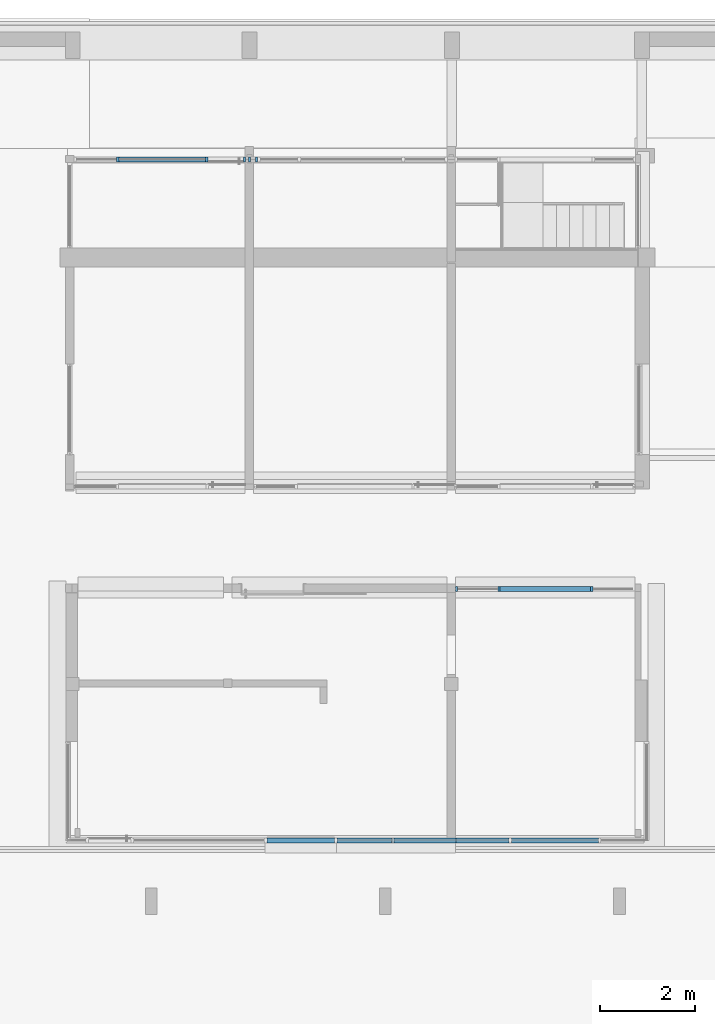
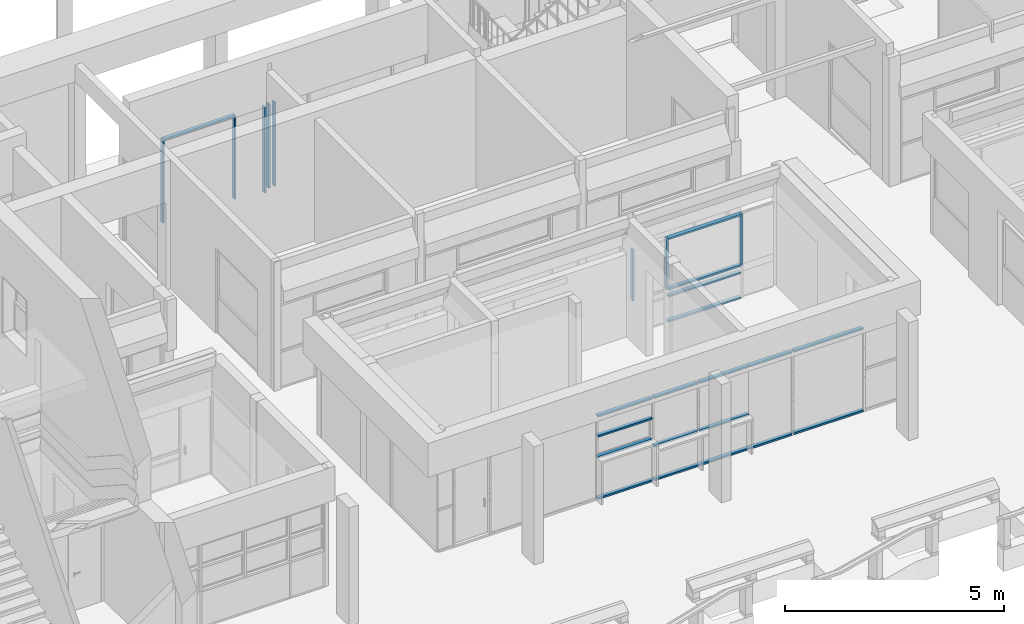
# One storey, part 6 of 117: 27 members, 3 elements without a shape of their own.
"""IFC4 building model written with IfcOpenShell, lengths in metres."""

from ifc_helpers import new_model, entity, si_unit, converted_unit, derived_unit, direction, frame, origin, place, context, subcontext, project, spatial, indexed_curve, outline, extrude, source, transform, mapped, material, type_object, type_shapes, element, aggregate, save


model = new_model("IFC4")

# Units and contexts
model_context = context("Model", 3, precision=1e-05, world=origin(), true_north=direction((6.123031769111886e-17, 1.0)))
body_context = subcontext(model_context, "Body", "Model", "MODEL_VIEW")
ifc_project = project(units=[si_unit("LENGTHUNIT", "METRE"), si_unit("AREAUNIT", "SQUARE_METRE"), si_unit("VOLUMEUNIT", "CUBIC_METRE"), converted_unit("PLANEANGLEUNIT", "DEGREE", entity("IfcRatioMeasure", 0.017453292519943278), si_unit("PLANEANGLEUNIT", "RADIAN"), dimensions=[0, 0, 0, 0, 0, 0, 0]), si_unit("MASSUNIT", "GRAM", prefix="KILO"), derived_unit("MASSDENSITYUNIT", [(si_unit("MASSUNIT", "GRAM", prefix="KILO"), 1), (si_unit("LENGTHUNIT", "METRE"), -3)]), derived_unit("MOMENTOFINERTIAUNIT", [(si_unit("LENGTHUNIT", "METRE"), 4)]), si_unit("TIMEUNIT", "SECOND"), si_unit("FREQUENCYUNIT", "HERTZ"), si_unit("THERMODYNAMICTEMPERATUREUNIT", "DEGREE_CELSIUS"), derived_unit("THERMALTRANSMITTANCEUNIT", [(si_unit("MASSUNIT", "GRAM", prefix="KILO"), 1), (si_unit("THERMODYNAMICTEMPERATUREUNIT", "KELVIN"), -1), (si_unit("TIMEUNIT", "SECOND"), -3)]), derived_unit("VOLUMETRICFLOWRATEUNIT", [(si_unit("LENGTHUNIT", "METRE"), 3), (si_unit("TIMEUNIT", "SECOND"), -1)]), derived_unit("MASSFLOWRATEUNIT", [(si_unit("MASSUNIT", "GRAM", prefix="KILO"), 1), (si_unit("TIMEUNIT", "SECOND"), -1)]), derived_unit("ROTATIONALFREQUENCYUNIT", [(si_unit("TIMEUNIT", "SECOND"), -1)]), si_unit("ELECTRICCURRENTUNIT", "AMPERE"), si_unit("ELECTRICVOLTAGEUNIT", "VOLT"), si_unit("POWERUNIT", "WATT"), si_unit("FORCEUNIT", "NEWTON", prefix="KILO"), si_unit("ILLUMINANCEUNIT", "LUX"), si_unit("LUMINOUSFLUXUNIT", "LUMEN"), si_unit("LUMINOUSINTENSITYUNIT", "CANDELA"), derived_unit("USERDEFINED", [(si_unit("MASSUNIT", "GRAM", prefix="KILO"), -1), (si_unit("LENGTHUNIT", "METRE"), -2), (si_unit("TIMEUNIT", "SECOND"), 3), (si_unit("LUMINOUSFLUXUNIT", "LUMEN"), 1)]), derived_unit("SOUNDPOWERUNIT", [(si_unit("MASSUNIT", "GRAM", prefix="KILO"), 1), (si_unit("LENGTHUNIT", "METRE"), 2), (si_unit("TIMEUNIT", "SECOND"), -3)]), derived_unit("SOUNDPRESSUREUNIT", [(si_unit("MASSUNIT", "GRAM", prefix="KILO"), 1), (si_unit("LENGTHUNIT", "METRE"), -1), (si_unit("TIMEUNIT", "SECOND"), -2)]), derived_unit("LINEARVELOCITYUNIT", [(si_unit("LENGTHUNIT", "METRE"), 1), (si_unit("TIMEUNIT", "SECOND"), -1)]), si_unit("PRESSUREUNIT", "PASCAL"), derived_unit("USERDEFINED", [(si_unit("LENGTHUNIT", "METRE"), -2), (si_unit("MASSUNIT", "GRAM", prefix="KILO"), 1), (si_unit("TIMEUNIT", "SECOND"), -2)]), derived_unit("LINEARFORCEUNIT", [(si_unit("MASSUNIT", "GRAM", prefix="KILO"), 1), (si_unit("LENGTHUNIT", "METRE"), 1), (si_unit("TIMEUNIT", "SECOND"), -2), (si_unit("LENGTHUNIT", "METRE"), -1)]), derived_unit("PLANARFORCEUNIT", [(si_unit("MASSUNIT", "GRAM", prefix="KILO"), 1), (si_unit("LENGTHUNIT", "METRE"), 1), (si_unit("TIMEUNIT", "SECOND"), -2), (si_unit("LENGTHUNIT", "METRE"), -2)])], contexts=[model_context])

# Site, building, storey
site_placement = place(None, origin())
site = spatial("IfcSite", under=ifc_project, at=site_placement, Name="Superficie", CompositionType="ELEMENT")
building_placement = place(site_placement, origin())
building = spatial("IfcBuilding", under=site, at=building_placement, CompositionType="ELEMENT")
storey_placement = place(building_placement, origin())
storey = spatial("IfcBuildingStorey", under=building, at=storey_placement, Name="Nivel 0", CompositionType="ELEMENT", Elevation=0.0)

# Curtain wall, members
curtain_wall_type = type_object("IfcCurtainWallType", Name="Muro cortina:Muro cortina - simple", PredefinedType="NOTDEFINED")
curtain_wall_1_placement = place(storey_placement, origin())
curtain_wall_1 = element("IfcCurtainWall", 1, at=curtain_wall_1_placement, inside=storey, type_object=curtain_wall_type, Name="Muro cortina:Muro cortina - simple", ObjectType="Muro cortina:Muro cortina - simple", PredefinedType="NOTDEFINED")
ifc_material = material(Name="<Unnamed>")
member_type_1 = type_object("IfcMemberType", Name="Montante rectangular:Montante rectangular - 5 x 10 cm", PredefinedType="MULLION", material=ifc_material)
shared_shape_1 = source(origin(), body_context, "Body", "SweptSolid", [
    extrude(outline(indexed_curve([(-0.05, -0.025), (0.05, -0.025), (0.05, 0.025), (-0.05, 0.025), (-0.05, -0.025)], self_intersect=False)), frame((0.0, 0.0, -1.4349999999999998), z_axis=(0.0, 0.0, 1.0), x_axis=(0.0, -1.0, 0.0)), (0.0, 0.0, 1.0), 1.4349999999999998),
])
type_shapes(member_type_1, [shared_shape_1])
member_1_placement = place(curtain_wall_1_placement, frame((-4.373200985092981, 3.5558292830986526, 0.9199999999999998), z_axis=(0.0, 0.0, -1.0), x_axis=(-1.0, 0.0, 0.0)))
member_1 = element("IfcMember", 2, at=member_1_placement, type_object=member_type_1, material=ifc_material, Name="Montante rectangular:Montante rectangular - 5 x 10 cm", ObjectType="Montante rectangular:Montante rectangular - 5 x 10 cm", PredefinedType="MULLION", context=body_context, shape_type="MappedRepresentation", body=[
    mapped(shared_shape_1, transform((0.0, 0.0, 0.0), scale=1.0)),
])
member_2_placement = place(curtain_wall_1_placement, frame((-6.333200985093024, 3.5558292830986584, 0.9199999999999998), z_axis=(0.0, 0.0, -1.0), x_axis=(-1.0, 0.0, 0.0)))
member_2 = element("IfcMember", 3, at=member_2_placement, type_object=member_type_1, material=ifc_material, Name="Montante rectangular:Montante rectangular - 5 x 10 cm", ObjectType="Montante rectangular:Montante rectangular - 5 x 10 cm", PredefinedType="MULLION", context=body_context, shape_type="MappedRepresentation", body=[
    mapped(shared_shape_1, transform((0.0, 0.0, 0.0), scale=1.0)),
])
member_3_placement = place(curtain_wall_1_placement, frame((-7.233200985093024, 3.555829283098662, 0.9199999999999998), z_axis=(0.0, 0.0, -1.0), x_axis=(-1.0, 0.0, 0.0)))
member_3 = element("IfcMember", 4, at=member_3_placement, type_object=member_type_1, material=ifc_material, Name="Montante rectangular:Montante rectangular - 5 x 10 cm", ObjectType="Montante rectangular:Montante rectangular - 5 x 10 cm", PredefinedType="MULLION", context=body_context, shape_type="MappedRepresentation", body=[
    mapped(shared_shape_1, transform((0.0, 0.0, 0.0), scale=1.0)),
])
member_type_2 = type_object("IfcMemberType", Name="Montante rectangular:Montante rectangular - 5 x 10 cm", PredefinedType="MULLION", material=ifc_material)
shared_shape_2 = source(origin(), body_context, "Body", "SweptSolid", [
    extrude(outline(indexed_curve([(-0.05, -0.025), (0.05, -0.025), (0.05, 0.025), (-0.05, 0.025), (-0.05, -0.025)], self_intersect=False)), frame((0.0, 0.0, -1.9100000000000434), z_axis=(0.0, 0.0, 1.0), x_axis=(0.0, -1.0, 0.0)), (0.0, 0.0, 1.0), 1.910000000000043),
])
type_shapes(member_type_2, [shared_shape_2])
member_4_placement = place(curtain_wall_1_placement, frame((-6.308200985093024, 3.5558292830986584, 0.9199999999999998), z_axis=(-1.0, 0.0, 0.0), x_axis=(0.0, 0.0, 1.0)))
member_4 = element("IfcMember", 5, at=member_4_placement, type_object=member_type_2, material=ifc_material, Name="Montante rectangular:Montante rectangular - 5 x 10 cm", ObjectType="Montante rectangular:Montante rectangular - 5 x 10 cm", PredefinedType="MULLION", context=body_context, shape_type="MappedRepresentation", body=[
    mapped(shared_shape_2, transform((0.0, 0.0, 0.0), scale=1.0)),
])
member_5_placement = place(curtain_wall_1_placement, frame((-6.308200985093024, 3.5558292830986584, 0.7199999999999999), z_axis=(-1.0, 0.0, 0.0), x_axis=(0.0, 0.0, 1.0)))
member_5 = element("IfcMember", 6, at=member_5_placement, type_object=member_type_2, material=ifc_material, Name="Montante rectangular:Montante rectangular - 5 x 10 cm", ObjectType="Montante rectangular:Montante rectangular - 5 x 10 cm", PredefinedType="MULLION", context=body_context, shape_type="MappedRepresentation", body=[
    mapped(shared_shape_2, transform((0.0, 0.0, 0.0), scale=1.0)),
])
member_6_placement = place(curtain_wall_1_placement, frame((-6.308200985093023, 3.5558292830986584, 0.019999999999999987), z_axis=(-1.0, 0.0, 0.0), x_axis=(0.0, 0.0, 1.0)))
member_6 = element("IfcMember", 7, at=member_6_placement, type_object=member_type_2, material=ifc_material, Name="Montante rectangular:Montante rectangular - 5 x 10 cm", ObjectType="Montante rectangular:Montante rectangular - 5 x 10 cm", PredefinedType="MULLION", context=body_context, shape_type="MappedRepresentation", body=[
    mapped(shared_shape_2, transform((0.0, 0.0, 0.0), scale=1.0)),
])
member_7_placement = place(curtain_wall_1_placement, frame((-6.308200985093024, 3.5558292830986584, 2.33), z_axis=(-1.0, 0.0, 0.0), x_axis=(0.0, 0.0, 1.0)))
member_7 = element("IfcMember", 8, at=member_7_placement, type_object=member_type_2, material=ifc_material, Name="Montante rectangular:Montante rectangular - 5 x 10 cm", ObjectType="Montante rectangular:Montante rectangular - 5 x 10 cm", PredefinedType="MULLION", context=body_context, shape_type="MappedRepresentation", body=[
    mapped(shared_shape_2, transform((0.0, 0.0, 0.0), scale=1.0)),
])
aggregate(curtain_wall_1, [member_1, member_2, member_4, member_5, member_3, member_6, member_7])

curtain_wall_2_placement = place(storey_placement, origin())
curtain_wall_2 = element("IfcCurtainWall", 9, at=curtain_wall_2_placement, inside=storey, type_object=curtain_wall_type, Name="Muro cortina:Muro cortina - simple", ObjectType="Muro cortina:Muro cortina - simple", PredefinedType="NOTDEFINED")
member_type_3 = type_object("IfcMemberType", Name="Montante rectangular:Montante rectangular - 5 x 10 cm", PredefinedType="MULLION", material=ifc_material)
shared_shape_3 = source(origin(), body_context, "Body", "SweptSolid", [
    extrude(outline(indexed_curve([(-0.05, -0.025), (0.05, -0.025), (0.05, 0.025), (-0.05, 0.025), (-0.05, -0.025)], self_intersect=False)), frame((-0.025, 0.0, -1.4299999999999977), z_axis=(0.0, 0.0, 1.0), x_axis=(0.0, -1.0, 0.0)), (0.0, 0.0, 1.0), 1.4299999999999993),
])
type_shapes(member_type_3, [shared_shape_3])
member_8_placement = place(curtain_wall_2_placement, frame((-11.239766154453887, -1.7641707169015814, 0.0), z_axis=(-1.0, 0.0, 0.0), x_axis=(0.0, 0.0, -1.0)))
member_8 = element("IfcMember", 10, at=member_8_placement, type_object=member_type_3, material=ifc_material, Name="Montante rectangular:Montante rectangular - 5 x 10 cm", ObjectType="Montante rectangular:Montante rectangular - 5 x 10 cm", PredefinedType="MULLION", context=body_context, shape_type="MappedRepresentation", body=[
    mapped(shared_shape_3, transform((0.0, 0.0, 0.0), scale=1.0)),
])
member_type_4 = type_object("IfcMemberType", Name="Montante rectangular:Montante rectangular - 5 x 10 cm", PredefinedType="MULLION", material=ifc_material)
shared_shape_4 = source(origin(), body_context, "Body", "SweptSolid", [
    extrude(outline(indexed_curve([(-0.05, -0.025), (0.05, -0.025), (0.05, 0.025), (-0.05, 0.025), (-0.05, -0.025)], self_intersect=False)), frame((-0.025, 0.0, -1.839999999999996), z_axis=(0.0, 0.0, 1.0), x_axis=(0.0, -1.0, 0.0)), (0.0, 0.0, 1.0), 1.839999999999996),
])
type_shapes(member_type_4, [shared_shape_4])
member_9_placement = place(curtain_wall_2_placement, frame((-4.233029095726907, -1.7641707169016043, 2.35), z_axis=(1.0, 0.0, 0.0), x_axis=(0.0, 0.0, 1.0)))
member_9 = element("IfcMember", 11, at=member_9_placement, type_object=member_type_4, material=ifc_material, Name="Montante rectangular:Montante rectangular - 5 x 10 cm", ObjectType="Montante rectangular:Montante rectangular - 5 x 10 cm", PredefinedType="MULLION", context=body_context, shape_type="MappedRepresentation", body=[
    mapped(shared_shape_4, transform((0.0, 0.0, 0.0), scale=1.0)),
])

# Curtain wall, member
curtain_wall_3_placement = place(storey_placement, origin())
curtain_wall_3 = element("IfcCurtainWall", 12, at=curtain_wall_3_placement, inside=storey, type_object=curtain_wall_type, Name="Muro cortina:Muro cortina - simple", ObjectType="Muro cortina:Muro cortina - simple", PredefinedType="NOTDEFINED")
member_10_placement = place(curtain_wall_3_placement, frame((-14.377388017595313, 12.640829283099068, 2.44), z_axis=(-1.0, 0.0, 0.0), x_axis=(0.0, 0.0, 1.0)))
member_10 = element("IfcMember", 13, at=member_10_placement, type_object=member_type_4, material=ifc_material, Name="Montante rectangular:Montante rectangular - 5 x 10 cm", ObjectType="Montante rectangular:Montante rectangular - 5 x 10 cm", PredefinedType="MULLION", context=body_context, shape_type="MappedRepresentation", body=[
    mapped(shared_shape_4, transform((0.0, 0.0, 0.0), scale=1.0)),
])

# Member
member_type_5 = type_object("IfcMemberType", Name="Montante rectangular:Montante rectangular - 5 x 10 cm", PredefinedType="MULLION", material=ifc_material)
shared_shape_5 = source(origin(), body_context, "Body", "SweptSolid", [
    extrude(outline(indexed_curve([(-0.05, -0.025), (0.05, -0.025), (0.05, 0.025), (-0.05, 0.025), (-0.05, -0.025)], self_intersect=False)), frame((-0.025, 0.0, -1.8399999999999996), z_axis=(0.0, 0.0, 1.0), x_axis=(0.0, -1.0, 0.0)), (0.0, 0.0, 1.0), 1.8399999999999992),
])
type_shapes(member_type_5, [shared_shape_5])
member_11_placement = place(curtain_wall_2_placement, frame((-6.0730290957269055, -1.7641707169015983, 0.0), z_axis=(-1.0, 0.0, 0.0), x_axis=(0.0, 0.0, -1.0)))
member_11 = element("IfcMember", 14, at=member_11_placement, type_object=member_type_5, material=ifc_material, Name="Montante rectangular:Montante rectangular - 5 x 10 cm", ObjectType="Montante rectangular:Montante rectangular - 5 x 10 cm", PredefinedType="MULLION", context=body_context, shape_type="MappedRepresentation", body=[
    mapped(shared_shape_5, transform((0.0, 0.0, 0.0), scale=1.0)),
])

member_type_6 = type_object("IfcMemberType", Name="Montante rectangular:Montante rectangular - 5 x 10 cm", PredefinedType="MULLION", material=ifc_material)
shared_shape_6 = source(origin(), body_context, "Body", "SweptSolid", [
    extrude(outline(indexed_curve([(-0.05, -0.025), (0.05, -0.025), (0.05, 0.025), (-0.05, 0.025), (-0.05, -0.025)], self_intersect=False)), frame((-0.025, 0.0, -1.124999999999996), z_axis=(0.0, 0.0, 1.0), x_axis=(0.0, -1.0, 0.0)), (0.0, 0.0, 1.0), 1.124999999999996),
])
type_shapes(member_type_6, [shared_shape_6])
member_12_placement = place(curtain_wall_2_placement, frame((-6.123029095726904, -1.7641707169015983, 2.35), z_axis=(1.0, 0.0, 0.0), x_axis=(0.0, 0.0, 1.0)))
member_12 = element("IfcMember", 15, at=member_12_placement, type_object=member_type_6, material=ifc_material, Name="Montante rectangular:Montante rectangular - 5 x 10 cm", ObjectType="Montante rectangular:Montante rectangular - 5 x 10 cm", PredefinedType="MULLION", context=body_context, shape_type="MappedRepresentation", body=[
    mapped(shared_shape_6, transform((0.0, 0.0, 0.0), scale=1.0)),
])

member_type_7 = type_object("IfcMemberType", Name="Montante rectangular:Montante rectangular - 5 x 10 cm", PredefinedType="MULLION", material=ifc_material)
shared_shape_7 = source(origin(), body_context, "Body", "SweptSolid", [
    extrude(outline(indexed_curve([(-0.05, -0.025), (0.05, -0.025), (0.05, 0.025), (-0.05, 0.025), (-0.05, -0.025)], self_intersect=False)), frame((-0.025, 0.0, -1.1249999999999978), z_axis=(0.0, 0.0, 1.0), x_axis=(0.0, -1.0, 0.0)), (0.0, 0.0, 1.0), 1.1249999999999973),
])
type_shapes(member_type_7, [shared_shape_7])
member_13_placement = place(curtain_wall_2_placement, frame((-7.248029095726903, -1.7641707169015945, 0.0), z_axis=(-1.0, 0.0, 0.0), x_axis=(0.0, 0.0, -1.0)))
member_13 = element("IfcMember", 16, at=member_13_placement, type_object=member_type_7, material=ifc_material, Name="Montante rectangular:Montante rectangular - 5 x 10 cm", ObjectType="Montante rectangular:Montante rectangular - 5 x 10 cm", PredefinedType="MULLION", context=body_context, shape_type="MappedRepresentation", body=[
    mapped(shared_shape_7, transform((0.0, 0.0, 0.0), scale=1.0)),
])

member_type_8 = type_object("IfcMemberType", Name="Montante rectangular:Montante rectangular - 5 x 10 cm", PredefinedType="MULLION", material=ifc_material)
shared_shape_8 = source(origin(), body_context, "Body", "SweptSolid", [
    extrude(outline(indexed_curve([(-0.05, -0.025), (0.05, -0.025), (0.05, 0.025), (-0.05, 0.025), (-0.05, -0.025)], self_intersect=False)), frame((-0.025, 0.0, -1.3117370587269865), z_axis=(0.0, 0.0, 1.0), x_axis=(0.0, -1.0, 0.0)), (0.0, 0.0, 1.0), 1.3117370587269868),
])
type_shapes(member_type_8, [shared_shape_8])
member_14_placement = place(curtain_wall_2_placement, frame((-7.2480290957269, -1.7641707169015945, 2.3499999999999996), z_axis=(1.0, 0.0, 0.0), x_axis=(0.0, 0.0, 1.0)))
member_14 = element("IfcMember", 17, at=member_14_placement, type_object=member_type_8, material=ifc_material, Name="Montante rectangular:Montante rectangular - 5 x 10 cm", ObjectType="Montante rectangular:Montante rectangular - 5 x 10 cm", PredefinedType="MULLION", context=body_context, shape_type="MappedRepresentation", body=[
    mapped(shared_shape_8, transform((0.0, 0.0, 0.0), scale=1.0)),
])

member_type_9 = type_object("IfcMemberType", Name="Montante rectangular:Montante rectangular - 5 x 10 cm", PredefinedType="MULLION", material=ifc_material)
shared_shape_9 = source(origin(), body_context, "Body", "SweptSolid", [
    extrude(outline(indexed_curve([(-0.05, -0.025), (0.05, -0.025), (0.05, 0.025), (-0.05, 0.025), (-0.05, -0.025)], self_intersect=False)), frame((-0.025, 0.0, -1.1749999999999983), z_axis=(0.0, 0.0, 1.0), x_axis=(0.0, -1.0, 0.0)), (0.0, 0.0, 1.0), 1.175),
])
type_shapes(member_type_9, [shared_shape_9])
member_15_placement = place(curtain_wall_2_placement, frame((-9.759766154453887, -1.7641707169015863, 0.0), z_axis=(-1.0, 0.0, 0.0), x_axis=(0.0, 0.0, -1.0)))
member_15 = element("IfcMember", 18, at=member_15_placement, type_object=member_type_9, material=ifc_material, Name="Montante rectangular:Montante rectangular - 5 x 10 cm", ObjectType="Montante rectangular:Montante rectangular - 5 x 10 cm", PredefinedType="MULLION", context=body_context, shape_type="MappedRepresentation", body=[
    mapped(shared_shape_9, transform((0.0, 0.0, 0.0), scale=1.0)),
])

member_type_10 = type_object("IfcMemberType", Name="Montante rectangular:Montante rectangular - 5 x 10 cm", PredefinedType="MULLION", material=ifc_material)
shared_shape_10 = source(origin(), body_context, "Body", "SweptSolid", [
    extrude(outline(indexed_curve([(-0.05, -0.025), (0.05, -0.025), (0.05, 0.025), (-0.05, 0.025), (-0.05, -0.025)], self_intersect=False)), frame((-0.025, 0.0, -1.4299999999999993), z_axis=(0.0, 0.0, 1.0), x_axis=(0.0, -1.0, 0.0)), (0.0, 0.0, 1.0), 1.4299999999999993),
])
type_shapes(member_type_10, [shared_shape_10])
member_16_placement = place(curtain_wall_2_placement, frame((-9.80976615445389, -1.7641707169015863, 2.35), z_axis=(1.0, 0.0, 0.0), x_axis=(0.0, 0.0, 1.0)))
member_16 = element("IfcMember", 19, at=member_16_placement, type_object=member_type_10, material=ifc_material, Name="Montante rectangular:Montante rectangular - 5 x 10 cm", ObjectType="Montante rectangular:Montante rectangular - 5 x 10 cm", PredefinedType="MULLION", context=body_context, shape_type="MappedRepresentation", body=[
    mapped(shared_shape_10, transform((0.0, 0.0, 0.0), scale=1.0)),
])

member_type_11 = type_object("IfcMemberType", Name="Montante rectangular:Montante rectangular - 5 x 10 cm", PredefinedType="MULLION", material=ifc_material)
shared_shape_11 = source(origin(), body_context, "Body", "SweptSolid", [
    extrude(outline(indexed_curve([(-0.05, -0.025), (0.05, -0.025), (0.05, 0.025), (-0.05, 0.025), (-0.05, -0.025)], self_intersect=False)), frame((-0.025, 0.0, -1.1500000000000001), z_axis=(0.0, 0.0, 1.0), x_axis=(0.0, -1.0, 0.0)), (0.0, 0.0, 1.0), 1.1500000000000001),
])
type_shapes(member_type_11, [shared_shape_11])
member_17_placement = place(curtain_wall_2_placement, frame((-8.609766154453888, -1.76417071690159, 2.35), z_axis=(1.0, 0.0, 0.0), x_axis=(0.0, 0.0, 1.0)))
member_17 = element("IfcMember", 20, at=member_17_placement, type_object=member_type_11, material=ifc_material, Name="Montante rectangular:Montante rectangular - 5 x 10 cm", ObjectType="Montante rectangular:Montante rectangular - 5 x 10 cm", PredefinedType="MULLION", context=body_context, shape_type="MappedRepresentation", body=[
    mapped(shared_shape_11, transform((0.0, 0.0, 0.0), scale=1.0)),
])

member_type_12 = type_object("IfcMemberType", Name="Montante rectangular:Montante rectangular - 5 x 10 cm", PredefinedType="MULLION", material=ifc_material)
shared_shape_12 = source(origin(), body_context, "Body", "SweptSolid", [
    extrude(outline(indexed_curve([(-0.05, -0.025), (0.05, -0.025), (0.05, 0.025), (-0.05, 0.025), (-0.05, -0.025)], self_intersect=False)), frame((-0.025, 0.0, -1.336737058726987), z_axis=(0.0, 0.0, 1.0), x_axis=(0.0, -1.0, 0.0)), (0.0, 0.0, 1.0), 1.3367370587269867),
])
type_shapes(member_type_12, [shared_shape_12])
member_18_placement = place(curtain_wall_2_placement, frame((-8.584766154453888, -1.76417071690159, 0.0), z_axis=(-1.0, 0.0, 0.0), x_axis=(0.0, 0.0, -1.0)))
member_18 = element("IfcMember", 21, at=member_18_placement, type_object=member_type_12, material=ifc_material, Name="Montante rectangular:Montante rectangular - 5 x 10 cm", ObjectType="Montante rectangular:Montante rectangular - 5 x 10 cm", PredefinedType="MULLION", context=body_context, shape_type="MappedRepresentation", body=[
    mapped(shared_shape_12, transform((0.0, 0.0, 0.0), scale=1.0)),
])

member_type_13 = type_object("IfcMemberType", Name="Montante rectangular:Montante rectangular - 5 x 10 cm", PredefinedType="MULLION", material=ifc_material)
shared_shape_13 = source(origin(), body_context, "Body", "SweptSolid", [
    extrude(outline(indexed_curve([(-0.05, -0.025), (0.05, -0.025), (0.05, 0.025), (-0.05, 0.025), (-0.05, -0.025)], self_intersect=False)), frame((0.0, 0.0, -1.429999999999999), z_axis=(0.0, 0.0, 1.0), x_axis=(0.0, -1.0, 0.0)), (0.0, 0.0, 1.0), 1.4299999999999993),
])
type_shapes(member_type_13, [shared_shape_13])
member_19_placement = place(curtain_wall_2_placement, frame((-9.80976615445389, -1.7641707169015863, 1.175), z_axis=(1.0, 0.0, 0.0), x_axis=(0.0, 0.0, 1.0)))
member_19 = element("IfcMember", 22, at=member_19_placement, type_object=member_type_13, material=ifc_material, Name="Montante rectangular:Montante rectangular - 5 x 10 cm", ObjectType="Montante rectangular:Montante rectangular - 5 x 10 cm", PredefinedType="MULLION", context=body_context, shape_type="MappedRepresentation", body=[
    mapped(shared_shape_13, transform((0.0, 0.0, 0.0), scale=1.0)),
])

member_20_placement = place(curtain_wall_2_placement, frame((-9.80976615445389, -1.7641707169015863, 1.7625), z_axis=(1.0, 0.0, 0.0), x_axis=(0.0, 0.0, 1.0)))
member_20 = element("IfcMember", 23, at=member_20_placement, type_object=member_type_13, material=ifc_material, Name="Montante rectangular:Montante rectangular - 5 x 10 cm", ObjectType="Montante rectangular:Montante rectangular - 5 x 10 cm", PredefinedType="MULLION", context=body_context, shape_type="MappedRepresentation", body=[
    mapped(shared_shape_13, transform((0.0, 0.0, 0.0), scale=1.0)),
])

member_type_14 = type_object("IfcMemberType", Name="Montante rectangular:Montante rectangular - 5 x 10 cm", PredefinedType="MULLION", material=ifc_material)
shared_shape_14 = source(origin(), body_context, "Body", "SweptSolid", [
    extrude(outline(indexed_curve([(-0.05, -0.025), (0.05, -0.025), (0.05, 0.025), (-0.05, 0.025), (-0.05, -0.025)], self_intersect=False)), frame((0.0, 0.0, -1.1500000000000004), z_axis=(0.0, 0.0, 1.0), x_axis=(0.0, -1.0, 0.0)), (0.0, 0.0, 1.0), 1.1500000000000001),
])
type_shapes(member_type_14, [shared_shape_14])
member_21_placement = place(curtain_wall_2_placement, frame((-8.609766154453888, -1.76417071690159, 0.9750000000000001), z_axis=(1.0, 0.0, 0.0), x_axis=(0.0, 0.0, 1.0)))
member_21 = element("IfcMember", 24, at=member_21_placement, type_object=member_type_14, material=ifc_material, Name="Montante rectangular:Montante rectangular - 5 x 10 cm", ObjectType="Montante rectangular:Montante rectangular - 5 x 10 cm", PredefinedType="MULLION", context=body_context, shape_type="MappedRepresentation", body=[
    mapped(shared_shape_14, transform((0.0, 0.0, 0.0), scale=1.0)),
])

member_type_15 = type_object("IfcMemberType", Name="Montante rectangular:Montante rectangular - 5 x 10 cm", PredefinedType="MULLION", material=ifc_material)
shared_shape_15 = source(origin(), body_context, "Body", "SweptSolid", [
    extrude(outline(indexed_curve([(-0.05, -0.025), (0.05, -0.025), (0.05, 0.025), (-0.05, 0.025), (-0.05, -0.025)], self_intersect=False)), frame((0.0, 0.0, -1.3117370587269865), z_axis=(0.0, 0.0, 1.0), x_axis=(0.0, -1.0, 0.0)), (0.0, 0.0, 1.0), 1.3117370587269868),
])
type_shapes(member_type_15, [shared_shape_15])
member_22_placement = place(curtain_wall_2_placement, frame((-7.248029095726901, -1.7641707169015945, 0.9750000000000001), z_axis=(1.0, 0.0, 0.0), x_axis=(0.0, 0.0, 1.0)))
member_22 = element("IfcMember", 25, at=member_22_placement, type_object=member_type_15, material=ifc_material, Name="Montante rectangular:Montante rectangular - 5 x 10 cm", ObjectType="Montante rectangular:Montante rectangular - 5 x 10 cm", PredefinedType="MULLION", context=body_context, shape_type="MappedRepresentation", body=[
    mapped(shared_shape_15, transform((0.0, 0.0, 0.0), scale=1.0)),
])

aggregate(curtain_wall_2, [member_8, member_9, member_11, member_12, member_13, member_14, member_15, member_16, member_17, member_18, member_19, member_21, member_22, member_20])

member_type_16 = type_object("IfcMemberType", Name="Montante rectangular:Montante rectangular - 5 x 10 cm", PredefinedType="MULLION", material=ifc_material)
shared_shape_16 = source(origin(), body_context, "Body", "SweptSolid", [
    extrude(outline(indexed_curve([(-0.05, -0.025), (0.05, -0.025), (0.05, 0.025), (-0.05, 0.025), (-0.05, -0.025)], self_intersect=False)), frame((0.0, 0.0, -2.3899999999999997), z_axis=(0.0, 0.0, 1.0), x_axis=(0.0, -1.0, 0.0)), (0.0, 0.0, 1.0), 2.3899999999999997),
])
type_shapes(member_type_16, [shared_shape_16])
member_23_placement = place(curtain_wall_3_placement, frame((-11.717388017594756, 12.640829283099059, 0.0), z_axis=(0.0, 0.0, -1.0), x_axis=(-1.0, 0.0, 0.0)))
member_23 = element("IfcMember", 26, at=member_23_placement, type_object=member_type_16, material=ifc_material, Name="Montante rectangular:Montante rectangular - 5 x 10 cm", ObjectType="Montante rectangular:Montante rectangular - 5 x 10 cm", PredefinedType="MULLION", context=body_context, shape_type="MappedRepresentation", body=[
    mapped(shared_shape_16, transform((0.0, 0.0, 0.0), scale=1.0)),
])

member_type_17 = type_object("IfcMemberType", Name="Montante rectangular:Montante rectangular - 5 x 10 cm", PredefinedType="MULLION", material=ifc_material)
shared_shape_17 = source(origin(), body_context, "Body", "SweptSolid", [
    extrude(outline(indexed_curve([(-0.05, -0.025), (0.05, -0.025), (0.05, 0.025), (-0.05, 0.025), (-0.05, -0.025)], self_intersect=False)), frame((0.0, 0.0, -2.339026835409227), z_axis=(0.0, 0.0, 1.0), x_axis=(0.0, -1.0, 0.0)), (0.0, 0.0, 1.0), 2.339026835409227),
])
type_shapes(member_type_17, [shared_shape_17])
member_24_placement = place(curtain_wall_3_placement, frame((-12.512388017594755, 12.640829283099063, 0.10097316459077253), z_axis=(0.0, 0.0, -1.0), x_axis=(-1.0, 0.0, 0.0)))
member_24 = element("IfcMember", 27, at=member_24_placement, type_object=member_type_17, material=ifc_material, Name="Montante rectangular:Montante rectangular - 5 x 10 cm", ObjectType="Montante rectangular:Montante rectangular - 5 x 10 cm", PredefinedType="MULLION", context=body_context, shape_type="MappedRepresentation", body=[
    mapped(shared_shape_17, transform((0.0, 0.0, 0.0), scale=1.0)),
])

member_25_placement = place(curtain_wall_3_placement, frame((-14.402388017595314, 12.640829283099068, 0.10097316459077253), z_axis=(0.0, 0.0, -1.0), x_axis=(-1.0, 0.0, 0.0)))
member_25 = element("IfcMember", 28, at=member_25_placement, type_object=member_type_17, material=ifc_material, Name="Montante rectangular:Montante rectangular - 5 x 10 cm", ObjectType="Montante rectangular:Montante rectangular - 5 x 10 cm", PredefinedType="MULLION", context=body_context, shape_type="MappedRepresentation", body=[
    mapped(shared_shape_17, transform((0.0, 0.0, 0.0), scale=1.0)),
])

member_type_18 = type_object("IfcMemberType", Name="Montante rectangular:Montante rectangular - 5 x 10 cm", PredefinedType="MULLION", material=ifc_material)
shared_shape_18 = source(origin(), body_context, "Body", "SweptSolid", [
    extrude(outline(indexed_curve([(-0.05, -0.025), (0.05, -0.025), (0.05, 0.025), (-0.05, 0.025), (-0.05, -0.025)], self_intersect=False)), frame((0.0, 0.0, -2.339026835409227), z_axis=(0.0, 0.0, 1.0), x_axis=(0.0, -1.0, 0.0)), (0.0, 0.0, 1.0), 2.339026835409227),
])
type_shapes(member_type_18, [shared_shape_18])
member_26_placement = place(curtain_wall_3_placement, frame((-11.462388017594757, 12.640829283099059, 0.10097316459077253), z_axis=(0.0, 0.0, -1.0), x_axis=(-1.0, 0.0, 0.0)))
member_26 = element("IfcMember", 29, at=member_26_placement, type_object=member_type_18, material=ifc_material, Name="Montante rectangular:Montante rectangular - 5 x 10 cm", ObjectType="Montante rectangular:Montante rectangular - 5 x 10 cm", PredefinedType="MULLION", context=body_context, shape_type="MappedRepresentation", body=[
    mapped(shared_shape_18, transform((0.0, 0.0, 0.0), scale=1.0)),
])

member_27_placement = place(curtain_wall_3_placement, frame((-11.612388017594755, 12.640829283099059, 0.10097316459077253), z_axis=(0.0, 0.0, -1.0), x_axis=(-1.0, 0.0, 0.0)))
member_27 = element("IfcMember", 30, at=member_27_placement, type_object=member_type_18, material=ifc_material, Name="Montante rectangular:Montante rectangular - 5 x 10 cm", ObjectType="Montante rectangular:Montante rectangular - 5 x 10 cm", PredefinedType="MULLION", context=body_context, shape_type="MappedRepresentation", body=[
    mapped(shared_shape_18, transform((0.0, 0.0, 0.0), scale=1.0)),
])

aggregate(curtain_wall_3, [member_23, member_26, member_27, member_24, member_10, member_25])

save(model, "model.ifc")
